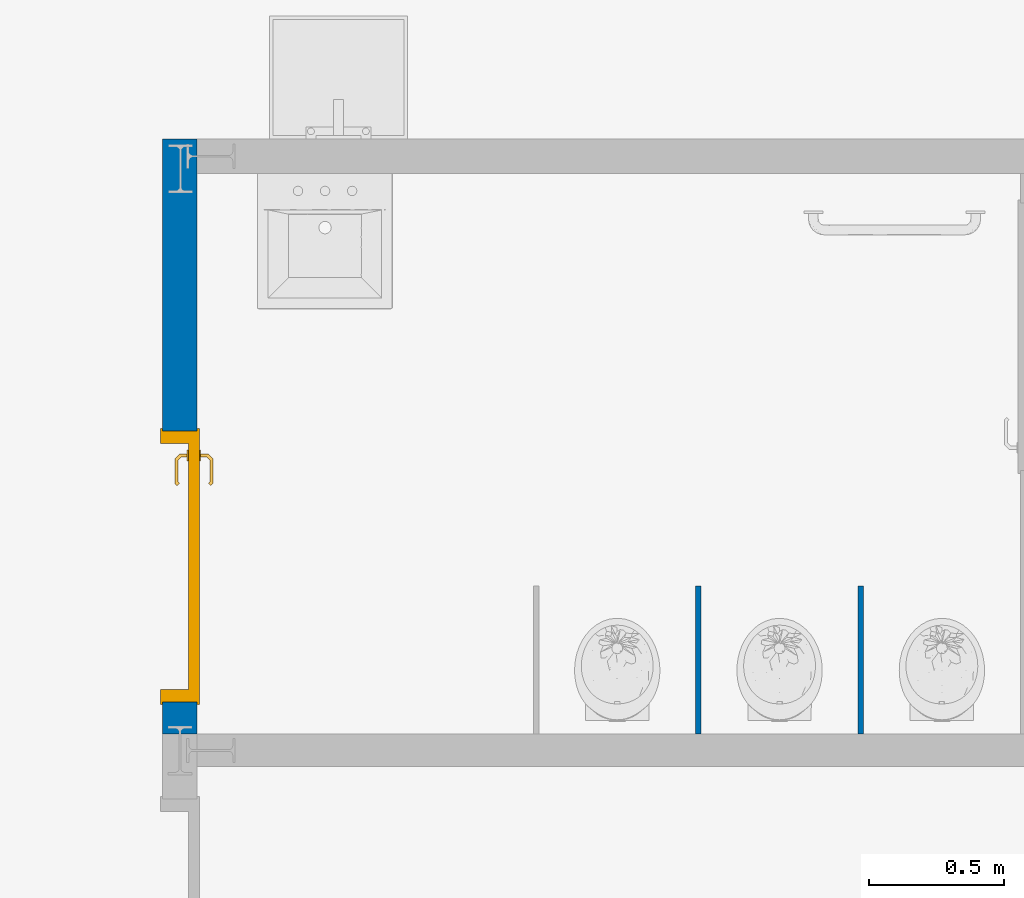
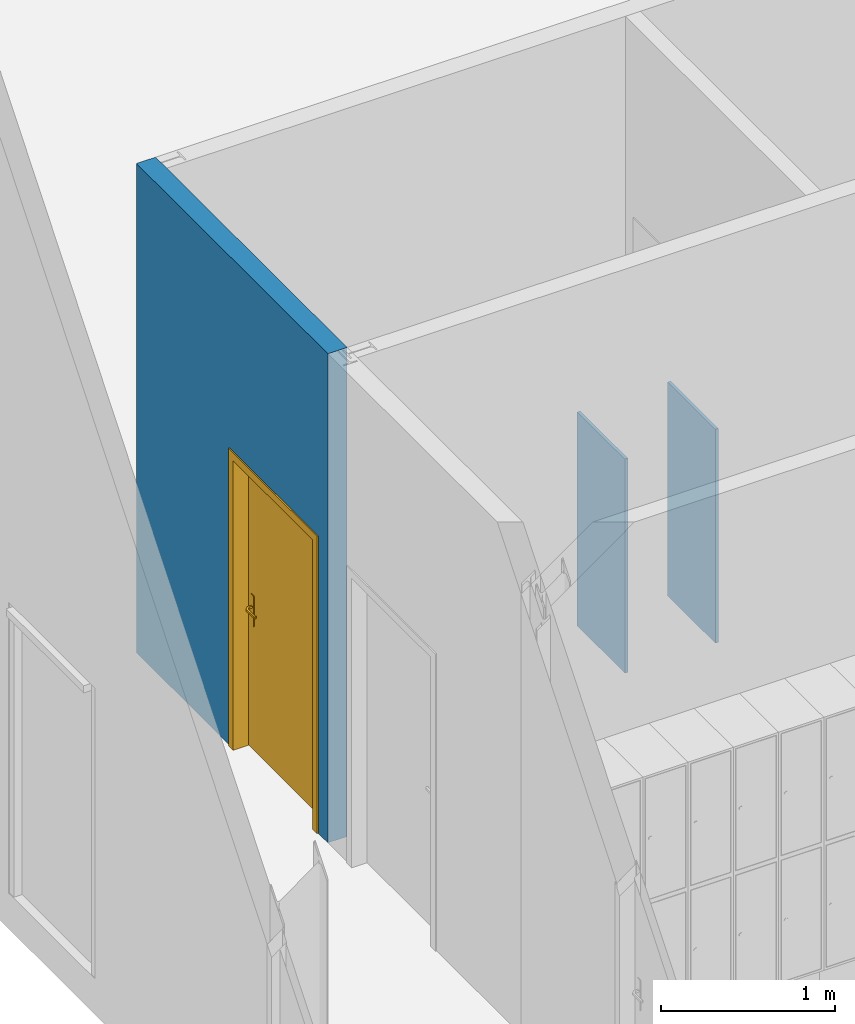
# One storey, part 51 of 137: 3 walls, 1 door, 1 opening.
"""IFC2X3 building model written with IfcOpenShell, lengths in centimetres."""

from ifc_helpers import new_model, entity, si_unit, converted_unit, derived_unit, direction, frame, frame_2d, origin, place, context, subcontext, project, spatial, rectangle, extrude, faceted_brep, source, transform, mapped, material, material_list, layer, layer_set, layer_usage, type_object, type_shapes, element, fill, save


model = new_model("IFC2X3")

# Units and contexts
model_context = context("Model", 3, precision=0.001, world=origin(), true_north=direction((6.12303176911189e-17, 1.0)))
body_context = subcontext(model_context, "Body", "Model", "MODEL_VIEW")
ifc_project = project(units=[si_unit("LENGTHUNIT", "METRE", prefix="CENTI"), si_unit("AREAUNIT", "SQUARE_METRE"), si_unit("VOLUMEUNIT", "CUBIC_METRE"), converted_unit("PLANEANGLEUNIT", "DEGREE", entity("IfcRatioMeasure", 0.0174532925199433), si_unit("PLANEANGLEUNIT", "RADIAN"), dimensions=[0, 0, 0, 0, 0, 0, 0]), si_unit("MASSUNIT", "GRAM", prefix="KILO"), si_unit("TIMEUNIT", "SECOND"), si_unit("FREQUENCYUNIT", "HERTZ"), si_unit("THERMODYNAMICTEMPERATUREUNIT", "DEGREE_CELSIUS"), derived_unit("THERMALTRANSMITTANCEUNIT", [(si_unit("MASSUNIT", "GRAM", prefix="KILO"), 1), (si_unit("THERMODYNAMICTEMPERATUREUNIT", "KELVIN"), -1), (si_unit("TIMEUNIT", "SECOND"), -3)]), derived_unit("VOLUMETRICFLOWRATEUNIT", [(si_unit("LENGTHUNIT", "METRE"), 3), (si_unit("TIMEUNIT", "SECOND"), -1)]), si_unit("ELECTRICCURRENTUNIT", "AMPERE"), si_unit("ELECTRICVOLTAGEUNIT", "VOLT"), si_unit("POWERUNIT", "WATT"), si_unit("FORCEUNIT", "NEWTON", prefix="KILO"), si_unit("ILLUMINANCEUNIT", "LUX"), si_unit("LUMINOUSFLUXUNIT", "LUMEN"), si_unit("LUMINOUSINTENSITYUNIT", "CANDELA"), derived_unit("USERDEFINED", [(si_unit("MASSUNIT", "GRAM", prefix="KILO"), -1), (si_unit("LENGTHUNIT", "METRE"), -2), (si_unit("TIMEUNIT", "SECOND"), 3), (si_unit("LUMINOUSFLUXUNIT", "LUMEN"), 1)]), derived_unit("LINEARVELOCITYUNIT", [(si_unit("LENGTHUNIT", "METRE"), 1), (si_unit("TIMEUNIT", "SECOND"), -1)]), si_unit("PRESSUREUNIT", "PASCAL"), derived_unit("USERDEFINED", [(si_unit("LENGTHUNIT", "METRE"), -2), (si_unit("MASSUNIT", "GRAM", prefix="KILO"), 1), (si_unit("TIMEUNIT", "SECOND"), -2)])], contexts=[model_context])

# Site, building, storey
site_placement = place(None, frame((8.62739174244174, -249.285249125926, 0.0)))
site = spatial("IfcSite", under=ifc_project, at=site_placement, Name="Default", CompositionType="ELEMENT")
building_placement = place(site_placement, origin())
building = spatial("IfcBuilding", under=site, at=building_placement, CompositionType="ELEMENT")
storey_placement = place(building_placement, origin())
storey = spatial("IfcBuildingStorey", under=building, at=storey_placement, Name="RDC", CompositionType="ELEMENT", Elevation=-8.82465566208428e-11)

# Wall, opening, door
ifc_material_1 = material(Name="Tôle/Doublage")
ifc_layer_1 = layer(ifc_material_1, 2.0)
ifc_material_2 = material(Name="Laine minérale")
ifc_layer_2 = layer(ifc_material_2, 9.5)
ifc_material_3 = material(Name="Plâtre_MU")
ifc_layer_3 = layer(ifc_material_3, 1.25)
ifc_layer_set_1 = layer_set([ifc_layer_1, ifc_layer_2, ifc_layer_3], Name="Mur de base:PLA 1.25 + ISO 9.5 + MET 4")
ifc_layer_usage_1 = layer_usage(ifc_layer_set_1, "AXIS2", "POSITIVE", -6.375)
wall_type_1 = type_object("IfcWallType", Name="Mur de base:PLA 1.25 + ISO 9.5 + MET 4", PredefinedType="STANDARD", material=ifc_layer_set_1)
wall_1_placement = place(storey_placement, frame((1030.27982780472, 2822.48020806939, 0.0), z_axis=(0.0, 0.0, 1.0), x_axis=(0.0, -1.0, 0.0)))
wall_1 = element("IfcWallStandardCase", 1, at=wall_1_placement, inside=storey, type_object=wall_type_1, material=ifc_layer_usage_1, Name="Mur de base:PLA 1.25 + ISO 9.5 + MET 4", ObjectType="Mur de base:PLA 1.25 + ISO 9.5 + MET 4", context=body_context, shape_type="SweptSolid", body=[
    extrude(rectangle(XDim=220.000000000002, YDim=12.7500000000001, at=frame_2d((110.000000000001, 4.30766533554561e-14), x_axis=(-1.0, 0.0))), origin(), (0.0, 0.0, 1.0), 343.000000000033),
])
opening_placement = place(wall_1_placement, frame((108.0, -6.37500000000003, 0.0)))
opening = element("IfcOpeningElement", 2, at=opening_placement, cuts=wall_1, Name="Simple(R)_bois_mu:93 x 204 cm:1", ObjectType="Opening", context=body_context, shape_type="SweptSolid", body=[
    extrude(rectangle(XDim=207.499999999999, YDim=99.9999999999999, at=frame_2d((103.749999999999, 50.0), x_axis=(1.0, 0.0))), frame((0.0, 0.0, 0.0), z_axis=(0.0, 1.0, 0.0), x_axis=(0.0, 0.0, 1.0)), (0.0, 0.0, 1.0), 12.75),
])
ifc_material_4 = material(Name="Porte - Poignée")
ifc_material_5 = material(Name="Porte - Cadre")
ifc_material_6 = material(Name="Porte - Panneau")
ifc_material_list_1 = material_list([ifc_material_4, ifc_material_5, ifc_material_6])
ifc_material_list_2 = material_list([ifc_material_4, ifc_material_5, ifc_material_6])
door_style = type_object("IfcDoorStyle", Name="93 x 204 cm", ConstructionType="NOTDEFINED", OperationType="SINGLE_SWING_LEFT", ParameterTakesPrecedence=False, Sizeable=False, material=ifc_material_list_2)
shared_shape = source(origin(), body_context, "Body", "Brep", [
    faceted_brep([(92.2025298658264, 3.69999999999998, 100.778044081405), (91.7974701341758, 3.69999999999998, 100.778044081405), (91.3999999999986, 3.69999999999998, 100.699999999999), (91.4000000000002, 3.69999999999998, 99.3000000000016), (91.7974701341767, 3.69999999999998, 99.2219559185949), (92.2025298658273, 3.69999999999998, 99.2219559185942), (92.6000000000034, 3.69999999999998, 99.2999999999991), (92.600000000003, 3.69999999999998, 100.699999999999), (91.3999999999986, 5.94852045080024, 100.699999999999), (91.3999999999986, 5.94852045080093, 99.3000000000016), (91.7974701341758, 6.11315797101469, 100.778044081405), (92.2025298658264, 6.2809392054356, 100.778044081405), (90.5838906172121, 7.89957845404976, 100.778044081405), (90.4161093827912, 7.49451872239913, 100.778044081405), (82.0793122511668, 7.49451872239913, 100.778044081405), (81.911531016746, 7.89957845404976, 100.778044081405), (81.1451046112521, 7.13315204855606, 100.778044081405), (81.4315250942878, 6.84673156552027, 100.778044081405), (92.600000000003, 6.44557672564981, 100.699999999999), (92.6000000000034, 6.44557672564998, 99.2999999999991), (92.2025298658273, 6.28093920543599, 99.2219559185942), (91.7974701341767, 6.11315797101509, 99.2219559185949), (90.4161093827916, 7.49451872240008, 99.2219559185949), (90.5838906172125, 7.8995784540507, 99.2219559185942), (81.9115310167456, 7.8995784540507, 99.2219559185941), (82.0793122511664, 7.49451872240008, 99.2219559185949), (81.4315250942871, 6.84673156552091, 99.2219559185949), (81.1451046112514, 7.13315204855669, 99.2219559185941), (90.2514718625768, 7.09704858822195, 100.699999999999), (90.2514718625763, 7.09704858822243, 99.3000000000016), (90.7485281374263, 8.29704858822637, 100.699999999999), (90.7485281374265, 8.29704858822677, 99.2999999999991), (86.247710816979, 7.09704858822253, 100.699999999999), (82.2439497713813, 7.09704858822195, 100.699999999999), (82.2439497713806, 7.09704858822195, 99.3000000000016), (86.247710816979, 7.09704858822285, 99.3000000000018), (86.2477108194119, 7.71249275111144, 100.787811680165), (85.7399422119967, 8.29704858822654, 100.699999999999), (81.7468934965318, 8.29704858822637, 100.699999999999), (86.7554791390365, 8.29704858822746, 99.2999999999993), (81.7468934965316, 8.29704858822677, 99.2999999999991), (86.2477107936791, 7.71249274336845, 99.2121883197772), (80.8640507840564, 7.41420587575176, 100.699999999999), (80.8640507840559, 7.41420587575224, 99.2999999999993), (81.7125789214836, 6.5656777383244, 99.3000000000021), (81.7125789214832, 6.56567773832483, 100.699999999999)], [[[0, 1, 2, 3, 4, 5, 6, 7]], [[8, 9, 3, 2]], [[1, 10, 8, 2]], [[1, 0, 11, 12, 13, 10]], [[14, 15, 16, 17]], [[7, 18, 11, 0]], [[18, 7, 6, 19]], [[6, 5, 20, 19]], [[5, 4, 21, 22, 23, 20]], [[24, 25, 26, 27]], [[4, 3, 9, 21]], [[28, 29, 9, 8]], [[8, 10, 13, 28]], [[18, 30, 12, 11]], [[31, 30, 18, 19]], [[19, 20, 23, 31]], [[21, 9, 29, 22]], [[29, 28, 32, 33, 34, 35]], [[36, 32, 13]], [[37, 38, 15]], [[37, 12, 30]], [[36, 12, 37]], [[14, 32, 36]], [[36, 15, 14]], [[28, 13, 32]], [[32, 14, 33]], [[12, 36, 13]], [[15, 36, 37]], [[30, 31, 39, 40, 38, 37]], [[23, 41, 39]], [[24, 39, 41]], [[39, 31, 23]], [[39, 24, 40]], [[22, 35, 41]], [[41, 23, 22]], [[41, 35, 25]], [[35, 22, 29]], [[34, 25, 35]], [[24, 41, 25]], [[17, 16, 42, 43, 27, 26, 44, 45]], [[45, 44, 34, 33]], [[33, 14, 17, 45]], [[15, 38, 42, 16]], [[43, 42, 38, 40]], [[24, 27, 43, 40]], [[34, 44, 26, 25]]]),
    faceted_brep([(91.7974701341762, -1.30000000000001, 100.778044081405), (92.2025298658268, -1.30000000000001, 100.778044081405), (92.6000000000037, -1.30000000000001, 100.699999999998), (92.6000000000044, -1.30000000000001, 99.2999999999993), (92.2025298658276, -1.30000000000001, 99.2219559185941), (91.797470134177, -1.30000000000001, 99.2219559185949), (91.3999999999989, -1.30000000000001, 99.3000000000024), (91.3999999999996, -1.30000000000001, 100.699999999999), (92.2025298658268, -3.90045754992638, 100.778044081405), (92.6000000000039, -4.06509507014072, 100.699999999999), (91.7974701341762, -3.73267631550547, 100.778044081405), (90.4298602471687, -5.10028620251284, 100.778044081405), (90.5976414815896, -5.50534593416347, 100.778044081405), (81.9142453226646, -5.50534593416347, 100.778044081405), (82.0820265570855, -5.10028620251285, 100.778044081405), (81.4342394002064, -4.4524990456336, 100.778044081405), (81.1478189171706, -4.73891952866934, 100.778044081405), (91.3999999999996, -3.56803879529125, 100.699999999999), (91.3999999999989, -3.56803879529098, 99.3000000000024), (91.797470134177, -3.7326763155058, 99.2219559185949), (92.2025298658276, -3.9004575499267, 99.2219559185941), (90.5976414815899, -5.50534593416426, 99.2219559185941), (90.429860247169, -5.10028620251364, 99.2219559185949), (82.0820265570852, -5.10028620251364, 99.2219559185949), (81.9142453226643, -5.50534593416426, 99.2219559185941), (81.14781891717, -4.73891952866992, 99.2219559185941), (81.4342394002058, -4.45249904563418, 99.2219559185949), (92.6000000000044, -4.06509507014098, 99.2999999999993), (90.762279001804, -5.90281606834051, 100.699999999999), (90.2652227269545, -4.70281606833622, 100.699999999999), (90.2652227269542, -4.70281606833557, 99.3000000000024), (90.7622790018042, -5.90281606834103, 99.2999999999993), (86.2559433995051, -5.31828027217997, 100.787811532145), (86.769230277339, -5.90281606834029, 100.699999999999), (81.7496078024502, -5.90281606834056, 100.699999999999), (86.255943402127, -4.70281606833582, 100.699999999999), (82.2466640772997, -4.70281606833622, 100.699999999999), (86.2559436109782, -4.70281606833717, 99.3000000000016), (82.2466640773, -4.70281606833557, 99.3000000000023), (86.2559434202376, -5.31828027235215, 99.2121884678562), (85.7426572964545, -5.90281606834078, 99.2999999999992), (81.74960780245, -5.90281606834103, 99.2999999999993), (81.7152932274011, -4.17144521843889, 99.3000000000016), (80.8667650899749, -5.01997335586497, 99.2999999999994), (80.8667650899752, -5.01997335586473, 100.699999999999), (81.7152932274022, -4.17144521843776, 100.699999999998)], [[[0, 1, 2, 3, 4, 5, 6, 7]], [[2, 1, 8, 9]], [[1, 0, 10, 11, 12, 8]], [[13, 14, 15, 16]], [[0, 7, 17, 10]], [[18, 17, 7, 6]], [[5, 19, 18, 6]], [[5, 4, 20, 21, 22, 19]], [[23, 24, 25, 26]], [[3, 27, 20, 4]], [[9, 27, 3, 2]], [[9, 8, 12, 28]], [[10, 17, 29, 11]], [[30, 29, 17, 18]], [[18, 19, 22, 30]], [[20, 27, 31, 21]], [[28, 31, 27, 9]], [[12, 32, 33]], [[13, 33, 32]], [[33, 28, 12]], [[33, 13, 34]], [[11, 35, 32]], [[32, 12, 11]], [[32, 35, 14]], [[35, 11, 29]], [[36, 14, 35]], [[13, 32, 14]], [[29, 30, 37, 38, 36, 35]], [[39, 37, 22]], [[40, 41, 24]], [[40, 21, 31]], [[39, 21, 40]], [[23, 37, 39]], [[39, 24, 23]], [[30, 22, 37]], [[37, 23, 38]], [[21, 39, 22]], [[24, 39, 40]], [[31, 28, 33, 34, 41, 40]], [[42, 26, 25, 43, 44, 16, 15, 45]], [[13, 16, 44, 34]], [[36, 45, 15, 14]], [[42, 45, 36, 38]], [[38, 23, 26, 42]], [[24, 41, 43, 25]], [[44, 43, 41, 34]]]),
    faceted_brep([(92.0, 3.19999999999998, 86.4641016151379), (93.0352761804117, 3.19999999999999, 86.6003983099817), (94.0, 3.19999999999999, 87.0), (94.0, 3.19999999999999, 108.0), (93.0352761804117, 3.19999999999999, 108.399601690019), (92.0, 3.19999999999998, 108.535898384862), (90.9647238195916, 3.19999999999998, 108.399601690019), (90.0, 3.19999999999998, 108.0), (90.0, 3.19999999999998, 87.0), (90.9647238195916, 3.19999999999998, 86.6003983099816), (92.0, 3.69999999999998, 108.535898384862), (93.0352761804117, 3.69999999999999, 108.399601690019), (94.0, 3.69999999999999, 108.0), (94.0, 3.69999999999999, 87.0), (93.0352761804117, 3.69999999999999, 86.6003983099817), (92.0, 3.69999999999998, 86.4641016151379), (90.9647238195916, 3.69999999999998, 86.6003983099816), (90.0, 3.69999999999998, 87.0), (90.0, 3.69999999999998, 108.0), (90.9647238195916, 3.69999999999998, 108.399601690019)], [[[0, 1, 2, 3, 4, 5, 6, 7, 8, 9]], [[10, 11, 12, 13, 14, 15, 16, 17, 18, 19]], [[6, 19, 18, 7]], [[5, 10, 19, 6]], [[4, 11, 10, 5]], [[4, 3, 12, 11]], [[12, 3, 2, 13]], [[1, 14, 13, 2]], [[0, 15, 14, 1]], [[9, 16, 15, 0]], [[9, 8, 17, 16]], [[17, 8, 7, 18]]]),
    faceted_brep([(92.0, -1.30000000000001, 86.4641016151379), (93.0352761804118, -1.30000000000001, 86.6003983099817), (94.0, -1.30000000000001, 87.0), (94.0, -1.30000000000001, 108.0), (93.0352761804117, -1.30000000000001, 108.399601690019), (92.0, -1.30000000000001, 108.535898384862), (90.9647238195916, -1.30000000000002, 108.399601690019), (90.0, -1.30000000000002, 108.0), (90.0, -1.30000000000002, 87.0), (90.9647238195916, -1.30000000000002, 86.6003983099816), (94.0, -0.800000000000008, 108.0), (94.0, -0.800000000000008, 87.0), (93.0352761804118, -0.800000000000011, 86.6003983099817), (92.0, -0.800000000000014, 86.4641016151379), (90.9647238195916, -0.800000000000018, 86.6003983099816), (90.0, -0.80000000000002, 87.0), (90.0, -0.80000000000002, 108.0), (90.9647238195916, -0.800000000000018, 108.399601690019), (92.0, -0.800000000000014, 108.535898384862), (93.0352761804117, -0.800000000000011, 108.399601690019)], [[[0, 1, 2, 3, 4, 5, 6, 7, 8, 9]], [[10, 11, 12, 13, 14, 15, 16, 17, 18, 19]], [[1, 12, 11, 2]], [[0, 13, 12, 1]], [[9, 14, 13, 0]], [[9, 8, 15, 14]], [[15, 8, 7, 16]], [[6, 17, 16, 7]], [[5, 18, 17, 6]], [[4, 19, 18, 5]], [[4, 3, 10, 19]], [[10, 3, 2, 11]]]),
    faceted_brep([(101.0, 0.0, 0.0), (102.0, 0.0, 0.0), (102.0, -0.799999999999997, 0.0), (97.5000000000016, -0.799999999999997, 0.0), (97.5000000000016, 3.2, 0.0), (96.5000000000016, 3.2, 0.0), (96.5000000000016, 13.5500000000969, 0.0), (102.0, 13.5500000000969, 0.0), (102.0, 12.750000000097, 0.0), (101.0, 12.750000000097, 0.0), (101.0, 12.750000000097, 207.499999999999), (101.0, 0.0, 207.499999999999), (102.0, 12.750000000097, 208.499999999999), (0.0, 12.750000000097, 208.499999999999), (0.0, 12.750000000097, 0.0), (1.0, 12.750000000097, 0.0), (1.0, 12.750000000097, 207.499999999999), (102.0, 13.5500000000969, 208.499999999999), (96.5000000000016, 13.5500000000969, 203.0), (5.50000000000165, 13.5500000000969, 203.0), (5.50000000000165, 13.5500000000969, 0.0), (0.0, 13.5500000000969, 0.0), (0.0, 13.5500000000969, 208.499999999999), (96.5000000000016, 3.2, 203.0), (97.5000000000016, 3.2, 204.0), (4.50000000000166, 3.2, 204.0), (4.50000000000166, 3.2, 0.0), (5.50000000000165, 3.2, 0.0), (5.50000000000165, 3.2, 203.0), (97.5000000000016, -0.799999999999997, 204.0), (102.0, -0.799999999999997, 208.499999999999), (0.0, -0.799999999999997, 208.499999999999), (0.0, -0.799999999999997, 0.0), (4.50000000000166, -0.799999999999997, 0.0), (4.50000000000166, -0.799999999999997, 204.0), (102.0, 0.0, 208.499999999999), (1.0, 0.0, 207.499999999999), (1.0, 0.0, 0.0), (0.0, 0.0, 0.0), (0.0, 0.0, 208.499999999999)], [[[0, 1, 2, 3, 4, 5, 6, 7, 8, 9]], [[9, 10, 11, 0]], [[8, 12, 13, 14, 15, 16, 10, 9]], [[7, 17, 12, 8]], [[6, 18, 19, 20, 21, 22, 17, 7]], [[5, 23, 18, 6]], [[4, 24, 25, 26, 27, 28, 23, 5]], [[3, 29, 24, 4]], [[2, 30, 31, 32, 33, 34, 29, 3]], [[1, 35, 30, 2]], [[0, 11, 36, 37, 38, 39, 35, 1]], [[16, 15, 37, 36]], [[37, 15, 14, 21, 20, 27, 26, 33, 32, 38]], [[22, 21, 14, 13]], [[28, 27, 20, 19]], [[34, 33, 26, 25]], [[39, 38, 32, 31]], [[10, 16, 36, 11]], [[17, 22, 13, 12]], [[23, 28, 19, 18]], [[29, 34, 25, 24]], [[35, 39, 31, 30]]]),
    faceted_brep([(97.5000000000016, -0.799999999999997, 204.0), (4.50000000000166, -0.799999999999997, 204.0), (4.50000000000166, -0.799999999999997, 0.0), (97.5000000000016, -0.799999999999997, 0.0), (97.5000000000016, 3.2, 204.0), (97.5000000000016, 3.2, 0.0), (4.50000000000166, 3.2, 0.0), (4.50000000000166, 3.2, 204.0)], [[[0, 1, 2, 3]], [[4, 5, 6, 7]], [[3, 5, 4, 0]], [[2, 6, 5, 3]], [[1, 7, 6, 2]], [[0, 4, 7, 1]]]),
])
type_shapes(door_style, [shared_shape])
door_placement = place(opening_placement, frame((101.0, 12.7499999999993, 0.0), z_axis=(0.0, 0.0, 1.0), x_axis=(-1.0, 0.0, 0.0)))
door = element("IfcDoor", 3, at=door_placement, inside=storey, type_object=door_style, material=ifc_material_list_1, Name="Simple(R)_bois_mu:93 x 204 cm", ObjectType="93 x 204 cm", OverallHeight=207.499999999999, OverallWidth=99.9999999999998, context=body_context, shape_type="MappedRepresentation", body=[
    mapped(shared_shape, transform((0.0, 0.0, 0.0), scale=1.0)),
])
fill(opening, door)

# Walls
ifc_material_7 = material(Name="Stratifié, ivoire, mat")
ifc_layer_4 = layer(ifc_material_7, 2.0)
ifc_layer_set_2 = layer_set([ifc_layer_4], Name="Mur de base:STRAT 2")
ifc_layer_usage_2 = layer_usage(ifc_layer_set_2, "AXIS2", "NEGATIVE", 1.0)
wall_type_2 = type_object("IfcWallType", Name="Mur de base:STRAT 2", PredefinedType="STANDARD", material=ifc_layer_set_2)
wall_2_placement = place(storey_placement, frame((1221.90482780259, 2602.48020806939, 50.0), z_axis=(0.0, 0.0, 1.0), x_axis=(0.0, 1.0, 0.0)))
element("IfcWallStandardCase", 4, at=wall_2_placement, inside=storey, type_object=wall_type_2, material=ifc_layer_usage_2, Name="Mur de base:STRAT 2", ObjectType="Mur de base:STRAT 2", context=body_context, shape_type="SweptSolid", body=[
    extrude(rectangle(XDim=54.738852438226, YDim=1.99999999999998, at=frame_2d((27.369426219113, 4.03566069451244e-14), x_axis=(-1.0, 0.0))), origin(), (0.0, 0.0, 1.0), 150.0),
])
ifc_layer_usage_3 = layer_usage(ifc_layer_set_2, "AXIS2", "NEGATIVE", 1.0)
wall_3_placement = place(storey_placement, frame((1281.90482780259, 2602.48020806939, 50.0), z_axis=(0.0, 0.0, 1.0), x_axis=(0.0, 1.0, 0.0)))
element("IfcWallStandardCase", 5, at=wall_3_placement, inside=storey, type_object=wall_type_2, material=ifc_layer_usage_3, Name="Mur de base:STRAT 2", ObjectType="Mur de base:STRAT 2", context=body_context, shape_type="SweptSolid", body=[
    extrude(rectangle(XDim=54.7388524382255, YDim=1.99999999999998, at=frame_2d((27.3694262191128, 4.03566069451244e-14), x_axis=(-1.0, 0.0))), origin(), (0.0, 0.0, 1.0), 150.0),
])

save(model, "model.ifc")
